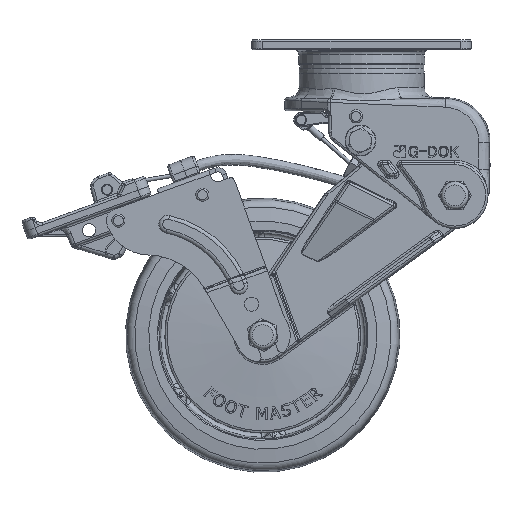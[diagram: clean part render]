
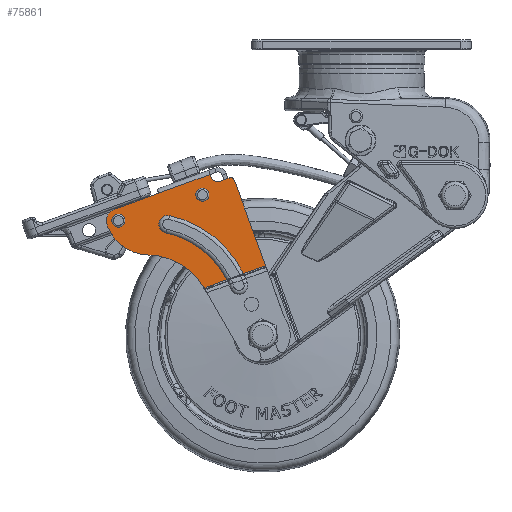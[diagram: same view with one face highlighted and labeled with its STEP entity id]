
A CAD part, front view. The second image highlights one B-rep face of the part: STEP entity #75861.
In plain terms, the highlighted planar face has unit normal (0, -1, 0).
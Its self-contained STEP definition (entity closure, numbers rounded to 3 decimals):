
#4726=FACE_BOUND('',#15209,.T.);
#4727=FACE_BOUND('',#15210,.T.);
#6155=PLANE('',#82942);
#10652=FACE_OUTER_BOUND('',#15208,.T.);
#15208=EDGE_LOOP('',(#65381,#65382,#65383,#65384,#65385,#65386,#65387,#65388,
#65389,#65390,#65391,#65392,#65393,#65394,#65395,#65396,#65397,#65398));
#15209=EDGE_LOOP('',(#65399));
#15210=EDGE_LOOP('',(#65400));
#18558=LINE('',#153249,#23059);
#18563=LINE('',#153263,#23064);
#18567=LINE('',#153275,#23068);
#18594=LINE('',#153377,#23095);
#18614=LINE('',#153432,#23115);
#18618=LINE('',#153439,#23119);
#18629=LINE('',#153506,#23130);
#18630=LINE('',#153517,#23131);
#18740=LINE('',#155938,#23241);
#23059=VECTOR('',#95825,10.);
#23064=VECTOR('',#95838,10.);
#23068=VECTOR('',#95850,10.);
#23095=VECTOR('',#95937,10.);
#23115=VECTOR('',#95987,10.);
#23119=VECTOR('',#95993,10.);
#23130=VECTOR('',#96044,10.);
#23131=VECTOR('',#96053,10.);
#23241=VECTOR('',#96799,10.);
#26608=CIRCLE('',#80761,30.);
#26616=CIRCLE('',#80776,2.);
#26618=CIRCLE('',#80780,3.);
#26620=CIRCLE('',#80784,5.5);
#26622=CIRCLE('',#80788,20.);
#26713=CIRCLE('',#80946,49.);
#26718=CIRCLE('',#80952,41.);
#26720=CIRCLE('',#80955,4.);
#26840=CIRCLE('',#81181,49.);
#27554=CIRCLE('',#82936,2.25);
#27557=CIRCLE('',#82943,2.25);
#32299=VERTEX_POINT('',#153201);
#32300=VERTEX_POINT('',#153203);
#32311=VERTEX_POINT('',#153239);
#32312=VERTEX_POINT('',#153241);
#32314=VERTEX_POINT('',#153247);
#32316=VERTEX_POINT('',#153253);
#32317=VERTEX_POINT('',#153257);
#32319=VERTEX_POINT('',#153261);
#32321=VERTEX_POINT('',#153267);
#32323=VERTEX_POINT('',#153273);
#32362=VERTEX_POINT('',#153373);
#32382=VERTEX_POINT('',#153430);
#32383=VERTEX_POINT('',#153435);
#32402=VERTEX_POINT('',#153504);
#32403=VERTEX_POINT('',#153509);
#32458=VERTEX_POINT('',#154542);
#32459=VERTEX_POINT('',#154544);
#32462=VERTEX_POINT('',#154552);
#33952=VERTEX_POINT('',#167343);
#33954=VERTEX_POINT('',#167353);
#41708=EDGE_CURVE('',#32300,#32299,#26608,.T.);
#41727=EDGE_CURVE('',#32312,#32311,#26616,.T.);
#41731=EDGE_CURVE('',#32311,#32314,#18558,.T.);
#41734=EDGE_CURVE('',#32314,#32316,#26618,.T.);
#41738=EDGE_CURVE('',#32317,#32319,#18563,.T.);
#41741=EDGE_CURVE('',#32319,#32321,#26620,.T.);
#41744=EDGE_CURVE('',#32321,#32323,#18567,.T.);
#41746=EDGE_CURVE('',#32323,#32300,#26622,.T.);
#41793=EDGE_CURVE('',#32317,#32362,#18594,.T.);
#41821=EDGE_CURVE('',#32299,#32382,#18614,.T.);
#41825=EDGE_CURVE('',#32383,#32312,#18618,.T.);
#41852=EDGE_CURVE('',#32402,#32382,#18629,.T.);
#41857=EDGE_CURVE('',#32383,#32403,#18630,.T.);
#41960=EDGE_CURVE('',#32459,#32458,#26713,.T.);
#41965=EDGE_CURVE('',#32402,#32462,#26718,.T.);
#41967=EDGE_CURVE('',#32462,#32459,#26720,.T.);
#42239=EDGE_CURVE('',#32316,#32362,#18740,.T.);
#42245=EDGE_CURVE('',#32458,#32403,#26840,.T.);
#44492=EDGE_CURVE('',#33952,#33952,#27554,.T.);
#44495=EDGE_CURVE('',#33954,#33954,#27557,.T.);
#65381=ORIENTED_EDGE('',*,*,#41965,.T.);
#65382=ORIENTED_EDGE('',*,*,#41967,.T.);
#65383=ORIENTED_EDGE('',*,*,#41960,.T.);
#65384=ORIENTED_EDGE('',*,*,#42245,.T.);
#65385=ORIENTED_EDGE('',*,*,#41857,.F.);
#65386=ORIENTED_EDGE('',*,*,#41825,.T.);
#65387=ORIENTED_EDGE('',*,*,#41727,.T.);
#65388=ORIENTED_EDGE('',*,*,#41731,.T.);
#65389=ORIENTED_EDGE('',*,*,#41734,.T.);
#65390=ORIENTED_EDGE('',*,*,#42239,.T.);
#65391=ORIENTED_EDGE('',*,*,#41793,.F.);
#65392=ORIENTED_EDGE('',*,*,#41738,.T.);
#65393=ORIENTED_EDGE('',*,*,#41741,.T.);
#65394=ORIENTED_EDGE('',*,*,#41744,.T.);
#65395=ORIENTED_EDGE('',*,*,#41746,.T.);
#65396=ORIENTED_EDGE('',*,*,#41708,.T.);
#65397=ORIENTED_EDGE('',*,*,#41821,.T.);
#65398=ORIENTED_EDGE('',*,*,#41852,.F.);
#65399=ORIENTED_EDGE('',*,*,#44492,.F.);
#65400=ORIENTED_EDGE('',*,*,#44495,.F.);
#75861=ADVANCED_FACE('',(#10652,#4726,#4727),#6155,.F.);
#80761=AXIS2_PLACEMENT_3D('',#153204,#95777,#95778);
#80776=AXIS2_PLACEMENT_3D('',#153242,#95818,#95819);
#80780=AXIS2_PLACEMENT_3D('',#153255,#95831,#95832);
#80784=AXIS2_PLACEMENT_3D('',#153269,#95844,#95845);
#80788=AXIS2_PLACEMENT_3D('',#153278,#95855,#95856);
#80946=AXIS2_PLACEMENT_3D('',#154545,#96242,#96243);
#80952=AXIS2_PLACEMENT_3D('',#154554,#96254,#96255);
#80955=AXIS2_PLACEMENT_3D('',#154557,#96260,#96261);
#81181=AXIS2_PLACEMENT_3D('',#156049,#96816,#96817);
#82936=AXIS2_PLACEMENT_3D('',#167345,#101354,#101355);
#82942=AXIS2_PLACEMENT_3D('',#167352,#101366,#101367);
#82943=AXIS2_PLACEMENT_3D('',#167354,#101368,#101369);
#95777=DIRECTION('center_axis',(0.,1.,0.));
#95778=DIRECTION('ref_axis',(-0.866,0.,-0.5));
#95818=DIRECTION('center_axis',(0.,-1.,0.));
#95819=DIRECTION('ref_axis',(0.94,0.,0.342));
#95825=DIRECTION('',(-0.94,0.,-0.342));
#95831=DIRECTION('center_axis',(0.,1.,0.));
#95832=DIRECTION('ref_axis',(0.94,0.,0.342));
#95838=DIRECTION('',(-0.94,0.,-0.342));
#95844=DIRECTION('center_axis',(0.,-1.,0.));
#95845=DIRECTION('ref_axis',(-0.342,0.,0.94));
#95850=DIRECTION('',(0.342,0.,-0.94));
#95855=DIRECTION('center_axis',(0.,-1.,0.));
#95856=DIRECTION('ref_axis',(-0.94,0.,-0.342));
#95937=DIRECTION('',(0.94,0.,0.342));
#95987=DIRECTION('',(0.5,0.,-0.866));
#95993=DIRECTION('',(-0.342,0.,0.94));
#96044=DIRECTION('',(-0.94,0.,-0.342));
#96053=DIRECTION('',(-0.94,0.,-0.342));
#96242=DIRECTION('center_axis',(0.,1.,0.));
#96243=DIRECTION('ref_axis',(0.934,0.,0.356));
#96254=DIRECTION('center_axis',(0.,-1.,0.));
#96255=DIRECTION('ref_axis',(-0.934,0.,-0.356));
#96260=DIRECTION('center_axis',(0.,1.,0.));
#96261=DIRECTION('ref_axis',(0.211,0.,0.977));
#96799=DIRECTION('',(-0.342,0.,0.94));
#96816=DIRECTION('center_axis',(0.,1.,0.));
#96817=DIRECTION('ref_axis',(0.934,0.,0.356));
#101354=DIRECTION('center_axis',(0.,-1.,0.));
#101355=DIRECTION('ref_axis',(0.,0.,-1.));
#101366=DIRECTION('center_axis',(0.,1.,0.));
#101367=DIRECTION('ref_axis',(0.94,0.,0.342));
#101368=DIRECTION('center_axis',(0.,-1.,0.));
#101369=DIRECTION('ref_axis',(0.,0.,-1.));
#153201=CARTESIAN_POINT('',(-71.876,-25.8,-112.905));
#153203=CARTESIAN_POINT('',(-97.327,-25.8,-97.91));
#153204=CARTESIAN_POINT('Origin',(-97.857,-25.8,-127.905));
#153239=CARTESIAN_POINT('',(-60.399,-25.8,-62.908));
#153241=CARTESIAN_POINT('',(-57.836,-25.8,-64.104));
#153242=CARTESIAN_POINT('Origin',(-59.715,-25.8,-64.788));
#153247=CARTESIAN_POINT('',(-64.628,-25.8,-64.447));
#153249=CARTESIAN_POINT('',(-60.399,-25.8,-62.908));
#153253=CARTESIAN_POINT('',(-68.473,-25.8,-62.654));
#153255=CARTESIAN_POINT('Origin',(-65.654,-25.8,-61.628));
#153257=CARTESIAN_POINT('',(-92.479,-25.8,-69.795));
#153261=CARTESIAN_POINT('',(-112.682,-25.8,-77.149));
#153263=CARTESIAN_POINT('',(-68.986,-25.8,-61.245));
#153267=CARTESIAN_POINT('',(-115.969,-25.8,-84.198));
#153269=CARTESIAN_POINT('Origin',(-110.801,-25.8,-82.317));
#153273=CARTESIAN_POINT('',(-115.767,-25.8,-84.754));
#153275=CARTESIAN_POINT('',(-115.969,-25.8,-84.198));
#153278=CARTESIAN_POINT('Origin',(-96.973,-25.8,-77.913));
#153373=CARTESIAN_POINT('',(-68.986,-25.8,-61.245));
#153377=CARTESIAN_POINT('',(-83.082,-25.8,-66.375));
#153430=CARTESIAN_POINT('',(-71.814,-25.8,-113.012));
#153432=CARTESIAN_POINT('',(-71.876,-25.8,-112.905));
#153435=CARTESIAN_POINT('',(-43.752,-25.8,-102.799));
#153439=CARTESIAN_POINT('',(-35.337,-25.8,-125.919));
#153504=CARTESIAN_POINT('',(-61.367,-25.8,-109.21));
#153506=CARTESIAN_POINT('',(-58.083,-25.8,-108.015));
#153509=CARTESIAN_POINT('',(-53.801,-25.8,-106.456));
#153517=CARTESIAN_POINT('',(-58.083,-25.8,-108.015));
#154542=CARTESIAN_POINT('',(-53.883,-25.8,-106.288));
#154544=CARTESIAN_POINT('',(-87.506,-25.8,-80.011));
#154545=CARTESIAN_POINT('Origin',(-97.857,-25.8,-127.905));
#154552=CARTESIAN_POINT('',(-89.196,-25.8,-87.831));
#154554=CARTESIAN_POINT('Origin',(-97.857,-25.8,-127.905));
#154557=CARTESIAN_POINT('Origin',(-88.351,-25.8,-83.921));
#155938=CARTESIAN_POINT('',(-68.473,-25.8,-62.654));
#156049=CARTESIAN_POINT('Origin',(-97.857,-25.8,-127.905));
#167343=CARTESIAN_POINT('',(-71.755,-25.8,-72.642));
#167345=CARTESIAN_POINT('Origin',(-72.525,-25.8,-70.528));
#167352=CARTESIAN_POINT('Origin',(-86.254,-25.8,-40.117));
#167353=CARTESIAN_POINT('',(-110.031,-25.8,-84.431));
#167354=CARTESIAN_POINT('Origin',(-110.801,-25.8,-82.317));
